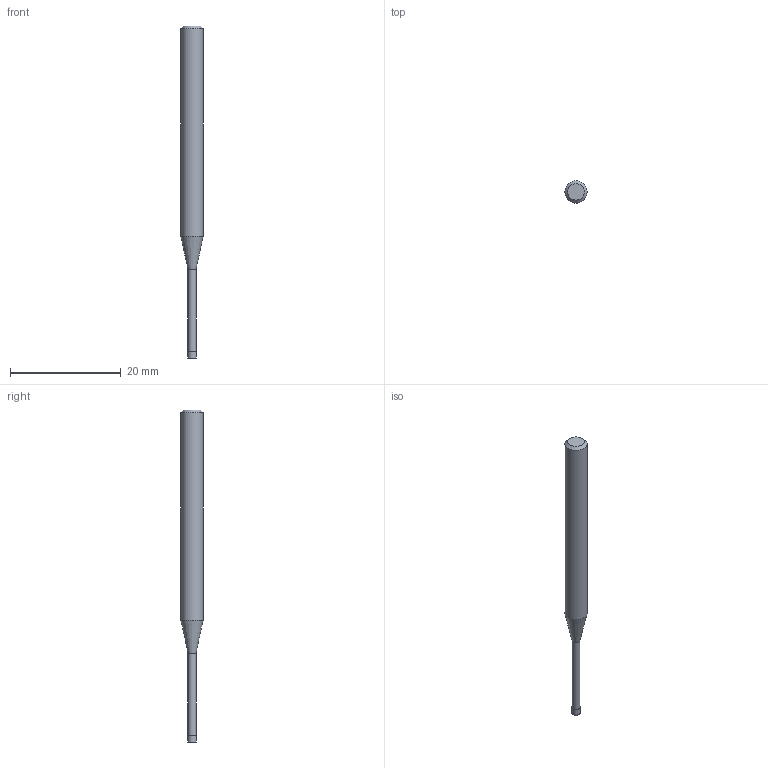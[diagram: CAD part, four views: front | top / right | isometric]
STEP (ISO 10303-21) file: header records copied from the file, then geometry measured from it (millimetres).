
FILE_DESCRIPTION((''),'2;1');
FILE_NAME('C:\Users\nsx150\AppData\Local\Temp\Mastercam 2021\3SYKECWX22\TEMP.step','2021-04-22T09:39:05',(''),(''),'STEP Write','Mastercam 2021 ... CNC Software, Inc.','');
FILE_SCHEMA(('AUTOMOTIVE_DESIGN'));
Length unit declared in the file: millimetre
Products named in the file (1): None
Bounding box: 4 x 4 x 60 mm (x, y, z)
Volume: 540.2 mm3; surface area: 616.9 mm2
Topology: 2 solids, 2 shells, 9 faces, 12 edges, 7 vertices
Faces by surface type: plane 4, cylinder 3, cone 2
Full cylindrical faces by diameter (mm): 1.45 x1, 1.5 x1, 4 x1
Entity records: 211 total; most frequent: DIRECTION 36, CARTESIAN_POINT 25, AXIS2_PLACEMENT_3D 18, ORIENTED_EDGE 14, EDGE_LOOP 14, STYLED_ITEM 12, ADVANCED_FACE 9, FACE_BOUND 8
